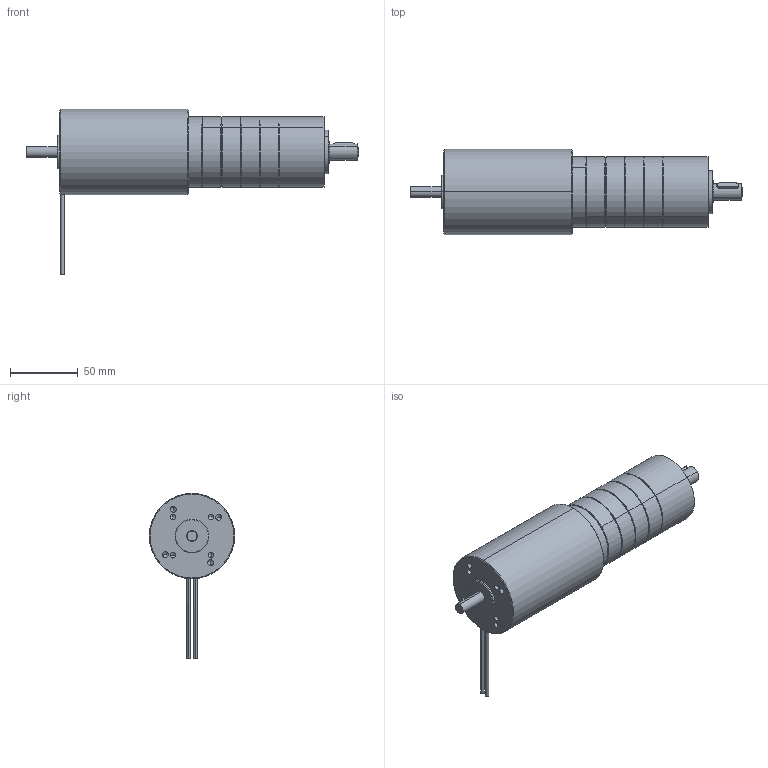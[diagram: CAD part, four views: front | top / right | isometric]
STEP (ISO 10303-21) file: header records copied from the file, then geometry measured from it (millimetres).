
FILE_DESCRIPTION (( 'STEP AP214' ), '1' );
FILE_NAME ('1-17-063-2xx_PM52-4st.STEP', '2020-11-23T11:12:11', ( '' ), ( '' ), 'SwSTEP 2.0', 'SolidWorks 2019', '' );
FILE_SCHEMA (( 'AUTOMOTIVE_DESIGN' ));
Length unit declared in the file: millimetre
Products named in the file (4): 7201574_Part; 1-17-063-2xx_PM52-4st; PM52 - 4etages; Motor bulher 1.17.063.202 
Assembly tree (3 placements, depth 2):
  1-17-063-2xx_PM52-4st
    Motor bulher 1.17.063.202 
    7201574_Part
    PM52 - 4etages
Bounding box: 245.15 x 63 x 122.05 mm (x, y, z)
Volume: 319514.3 mm3; surface area: 119168 mm2
Topology: 2 solids, 46 shells, 1466 faces, 3905 edges, 2531 vertices
Faces by surface type: cylinder 749, plane 529, cone 140, torus 48
Entity records: 62402 total; most frequent: CARTESIAN_POINT 8681, DIRECTION 8494, ORIENTED_EDGE 7674, EDGE_CURVE 3863, AXIS2_PLACEMENT_3D 3188, VERTEX_POINT 2531, VECTOR 2118, LINE 2118
